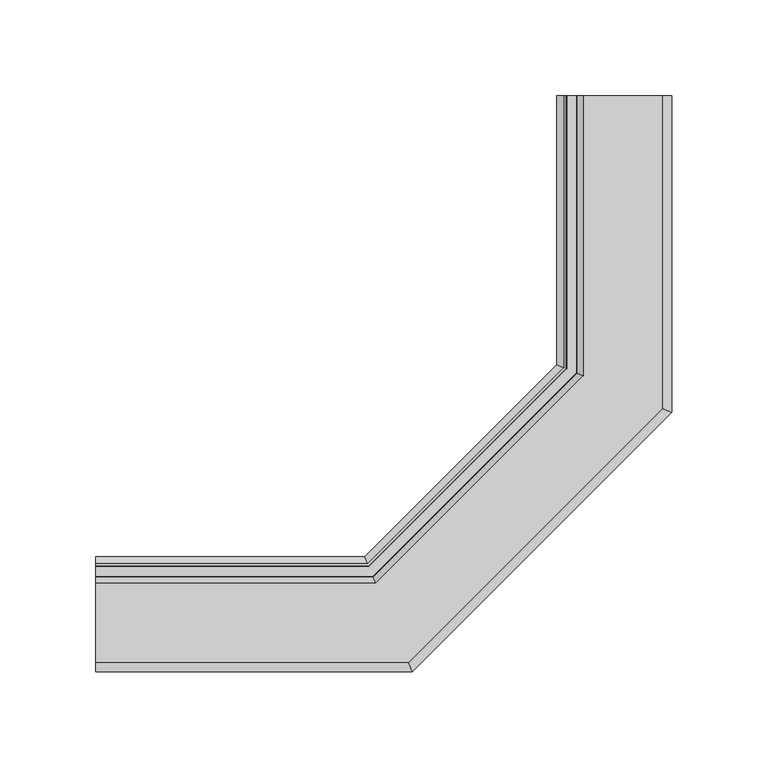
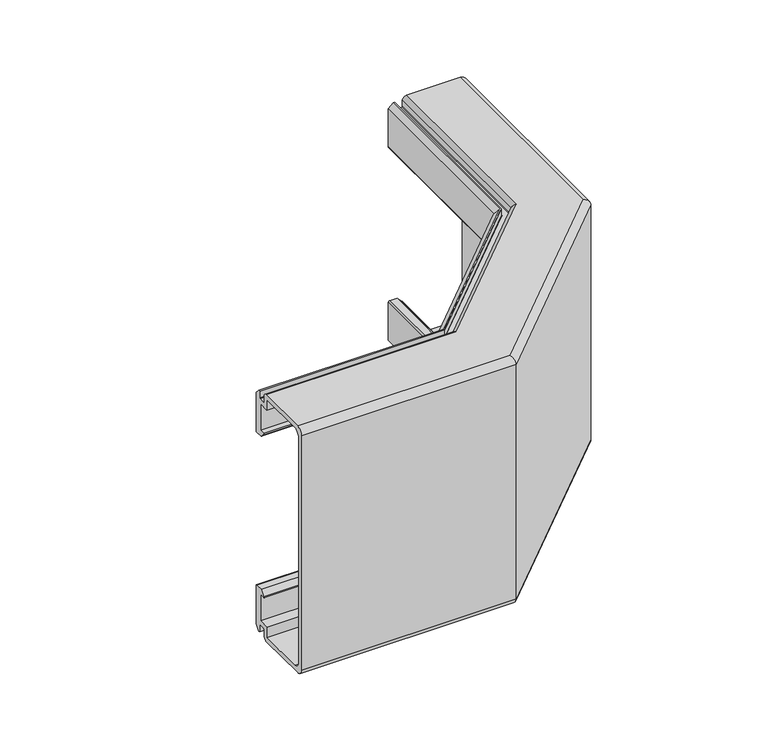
"""IFC4 building model written with IfcOpenShell, lengths in millimetres: cable carrier fitting geometry, CCBPE_Vertical_Inside_Bend-Basorplast : Basorplast CCBPE."""

import ifcopenshell
import ifcopenshell.guid

model = None  # the IFC model being written
_history = None  # IfcOwnerHistory: only IFC2X3 demands one
_inside = {}  # id of a spatial element -> (the spatial element, [elements in it])
_under = {}  # id of a project, library or spatial element -> (it, [spatial elements below it])
_declared = {}  # id of a project -> (the project, [libraries it declares])
_typed = {}  # id of a type object -> (the type object, [elements of that type])
_made_of = {}  # id of a material, layer set ... -> (it, [elements and type objects made of it])


def new_model(schema):
    """Start an empty IFC model of exactly this schema.

    Asked for "IFC4X3", IfcOpenShell would pick the latest addendum, in which some entities
    have other attributes; the version numbers below select the first issue.
    IFC2X3 requires an IfcOwnerHistory on every rooted entity: one is made here for all.
    """
    global model, _history
    if schema == "IFC4X3":
        model = ifcopenshell.file(schema_version=(4, 3, 0, 0))
    else:
        model = ifcopenshell.file(schema=schema)
    _inside.clear()
    _under.clear()
    _declared.clear()
    _typed.clear()
    _made_of.clear()
    _history = None
    if model.schema == "IFC2X3":
        org = make("IfcOrganization", Name="unknown")
        user = make(
            "IfcPersonAndOrganization",
            ThePerson=make("IfcPerson", FamilyName="unknown"),
            TheOrganization=org,
        )
        app = make(
            "IfcApplication",
            ApplicationDeveloper=org,
            Version="unknown",
            ApplicationFullName="unknown",
            ApplicationIdentifier="unknown",
        )
        _history = make(
            "IfcOwnerHistory",
            OwningUser=user,
            OwningApplication=app,
            ChangeAction="ADDED",
            CreationDate=0,
        )
    return model


def make(cls, **values):
    """One entity of the class cls with the attributes given. An attribute that is None is left unset."""
    return model.create_entity(
        cls, **{name: value for name, value in values.items() if value is not None}
    )


def rooted(cls, **values):
    """An entity with a GlobalId (a new one), such as an element, a storey or a relation."""
    return make(cls, GlobalId=ifcopenshell.guid.new(), OwnerHistory=_history, **values)


def si_unit(unit_type, name, prefix=None):
    """IfcSIUnit, for example si_unit("LENGTHUNIT", "METRE", prefix="MILLI")."""
    return make("IfcSIUnit", UnitType=unit_type, Prefix=prefix, Name=name)


def assignment(units):
    """IfcUnitAssignment: the units of a project."""
    return None if units is None else make("IfcUnitAssignment", Units=units)


def point(xyz):
    """IfcCartesianPoint."""
    return None if xyz is None else make("IfcCartesianPoint", Coordinates=xyz)


def direction(xyz):
    """IfcDirection."""
    return None if xyz is None else make("IfcDirection", DirectionRatios=xyz)


def frame(location, z_axis=None, x_axis=None):
    """IfcAxis2Placement3D, a coordinate frame: its origin and axes. An axis left out is left unset."""
    return make(
        "IfcAxis2Placement3D",
        Location=point(location),
        Axis=direction(z_axis),
        RefDirection=direction(x_axis),
    )


def origin():
    """The frame at (0, 0, 0) with its axes left unset."""
    return frame((0.0, 0.0, 0.0))


def place(relative_to, where):
    """IfcLocalPlacement: puts the frame where relative to a parent placement (None: the world)."""
    return make(
        "IfcLocalPlacement", PlacementRelTo=relative_to, RelativePlacement=where
    )


def context(
    kind, dimensions, precision=None, world=None, true_north=None, identifier=None
):
    """IfcGeometricRepresentationContext, for example the 3D "Model" context."""
    return make(
        "IfcGeometricRepresentationContext",
        ContextIdentifier=identifier,
        ContextType=kind,
        CoordinateSpaceDimension=dimensions,
        Precision=precision,
        WorldCoordinateSystem=world,
        TrueNorth=true_north,
    )


def project(units=None, contexts=None):
    """IfcProject with its units and contexts."""
    return rooted(
        "IfcProject",
        Name="project",
        RepresentationContexts=contexts,
        UnitsInContext=assignment(units),
    )


def spatial(cls, under=None, at=None, **own):
    """A site, building, storey or space (cls), placed at a placement, below another one or the project."""
    s = rooted(cls, ObjectPlacement=at, **own)
    if under is not None:
        _under.setdefault(under.id(), (under, []))[1].append(s)
    return s


def polyline(points):
    """IfcPolyline through the points."""
    return make("IfcPolyline", Points=[point(p) for p in points])


def circle_curve(where, radius):
    """IfcCircle in the frame where."""
    return make("IfcCircle", Position=where, Radius=radius)


def ellipse_curve(where, semi_axis1, semi_axis2):
    """IfcEllipse in the frame where."""
    return make(
        "IfcEllipse", Position=where, SemiAxis1=semi_axis1, SemiAxis2=semi_axis2
    )


def shape(context_of_items, identifier, shape_type, items):
    """IfcShapeRepresentation: the items that make up one representation, for example the "Body"."""
    return make(
        "IfcShapeRepresentation",
        ContextOfItems=context_of_items,
        RepresentationIdentifier=identifier,
        RepresentationType=shape_type,
        Items=items,
    )


def source(mapping_origin, context_of_items, identifier, shape_type, items):
    """IfcRepresentationMap: a shape defined once, which mapped items show again and again."""
    return make(
        "IfcRepresentationMap",
        MappingOrigin=mapping_origin,
        MappedRepresentation=shape(context_of_items, identifier, shape_type, items),
    )


def transform(
    local_origin,
    x_axis=None,
    y_axis=None,
    z_axis=None,
    scale=None,
    scale2=None,
    scale3=None,
    uniform=True,
):
    """IfcCartesianTransformationOperator3D, or its non-uniform kind. x_axis, y_axis, z_axis: its Axis1, 2, 3."""
    if uniform:
        return make(
            "IfcCartesianTransformationOperator3D",
            Axis1=direction(x_axis),
            Axis2=direction(y_axis),
            LocalOrigin=point(local_origin),
            Scale=scale,
            Axis3=direction(z_axis),
        )
    return make(
        "IfcCartesianTransformationOperator3DnonUniform",
        Axis1=direction(x_axis),
        Axis2=direction(y_axis),
        LocalOrigin=point(local_origin),
        Scale=scale,
        Axis3=direction(z_axis),
        Scale2=scale2,
        Scale3=scale3,
    )


def mapped(mapping_source, mapping_target):
    """IfcMappedItem: shows the shape of a source again, moved by a transform."""
    return make(
        "IfcMappedItem", MappingSource=mapping_source, MappingTarget=mapping_target
    )


def made_of(thing, what):
    """Note that an element or type object is made of a material, layer set ...; save() writes the relation."""
    if what is not None:
        _made_of.setdefault(what.id(), (what, []))[1].append(thing)
    return thing


def element(
    cls,
    number,
    at=None,
    inside=None,
    cuts=None,
    type_object=None,
    material=None,
    context=None,
    identifier="Body",
    shape_type=None,
    held_by="IfcProductDefinitionShape",
    body=None,
    shapes=None,
    **own,
):
    """One element of the class cls, such as IfcWall. Its Tag is "e" and its number.

    at: its placement. inside: the storey or other place that contains it. cuts: it is an
    opening in that element (IfcRelVoidsElement). A single representation is given by context,
    identifier, shape_type and body (its items); several are given by shapes. held_by: the class
    of the entity that holds the representations. save() writes the other relations.
    """
    e = rooted(cls, Tag="e%d" % number, ObjectPlacement=at, **own)
    if body is not None:
        shapes = [shape(context, identifier, shape_type, body)]
    if shapes is not None:
        e.Representation = make(held_by, Representations=shapes)
    if inside is not None:
        _inside.setdefault(inside.id(), (inside, []))[1].append(e)
    if cuts is not None:
        rooted(
            "IfcRelVoidsElement", RelatingBuildingElement=cuts, RelatedOpeningElement=e
        )
    if type_object is not None:
        _typed.setdefault(type_object.id(), (type_object, []))[1].append(e)
    return made_of(e, material)


def aggregate(whole, parts):
    """IfcRelAggregates: a whole, such as a stair, and the parts it consists of."""
    return rooted("IfcRelAggregates", RelatingObject=whole, RelatedObjects=parts)


def save(model, path):
    """Write the relations noted so far, then the file.

    IfcRelAggregates (storeys below a building ...), IfcRelContainedInSpatialStructure (elements
    in a storey), IfcRelDefinesByType, IfcRelAssociatesMaterial and IfcRelDeclares: one each for
    every whole, place, type object, material and project.
    """
    for whole, parts in _under.values():
        aggregate(whole, parts)
    for where, things in _inside.values():
        rooted(
            "IfcRelContainedInSpatialStructure",
            RelatedElements=things,
            RelatingStructure=where,
        )
    for kind, things in _typed.values():
        rooted("IfcRelDefinesByType", RelatedObjects=things, RelatingType=kind)
    for what, things in _made_of.values():
        rooted("IfcRelAssociatesMaterial", RelatedObjects=things, RelatingMaterial=what)
    for by, libraries in _declared.values():
        rooted("IfcRelDeclares", RelatingContext=by, RelatedDefinitions=libraries)
    model.write(path)


def plane_surface(at):
    """IfcPlane: the flat surface through the origin of the frame at, square to its z axis."""
    return make("IfcPlane", Position=at)


def cylinder_surface(at, radius):
    """IfcCylindricalSurface: all points at the distance radius from the z axis of the frame at."""
    return make("IfcCylindricalSurface", Position=at, Radius=radius)


def revolved_surface(curve, axis_point, axis_direction):
    """IfcSurfaceOfRevolution: the curve turned about the line through axis_point along axis_direction."""
    return make(
        "IfcSurfaceOfRevolution",
        SweptCurve=make("IfcArbitraryOpenProfileDef", ProfileType="CURVE", Curve=curve),
        AxisPosition=make("IfcAxis1Placement", Location=point(axis_point), Axis=direction(axis_direction)),
    )


def advanced_brep(points, edges, surfaces, faces):
    """IfcAdvancedBrep: a solid bounded by faces that lie on surfaces and meet in shared edges.

    An edge is (start, end): straight between two places in points (the first is 0);
    or (start, end, curve); or (start, end, curve, False) where it runs against its curve.
    A face is (place in surfaces, loops), or (place, loops, False) where it looks against
    its surface's normal. A loop lists edges by number (the first is 1), with a minus sign
    where the edge is run from its end to its start. The first loop is the outer one.
    """
    corners = [point(p) for p in points]
    vertices = [make("IfcVertexPoint", VertexGeometry=c) for c in corners]
    made = []
    for start, end, *more in edges:
        made.append(
            make(
                "IfcEdgeCurve",
                EdgeStart=vertices[start],
                EdgeEnd=vertices[end],
                EdgeGeometry=more[0] if more else make("IfcPolyline", Points=[corners[start], corners[end]]),
                SameSense=more[1] if len(more) > 1 else True,
            )
        )
    hull = []
    for where, loops, *sense in faces:
        bounds = []
        for j, loop in enumerate(loops):
            ring = [make("IfcOrientedEdge", EdgeElement=made[abs(k) - 1], Orientation=k > 0) for k in loop]
            bounds.append(
                make(
                    "IfcFaceOuterBound" if j == 0 else "IfcFaceBound",
                    Bound=make("IfcEdgeLoop", EdgeList=ring),
                    Orientation=True,
                )
            )
        hull.append(make("IfcAdvancedFace", Bounds=bounds, FaceSurface=surfaces[where], SameSense=sense[0] if sense else True))
    return make("IfcAdvancedBrep", Outer=make("IfcClosedShell", CfsFaces=hull))


def cable_carrier_fitting_e7411418(model_context):
    return source(origin(), model_context, "Body", "AdvancedBrep", [
        advanced_brep(
        [(-19.6464466, 270.0, -65.6464466), (-20.0, 270.0, -66.5), (-24.0, 270.0, -66.5), (-24.0, 270.0, -87.9), (-15.7, 270.0, -87.9), (-15.7, 270.0, -96.4), (21.4, 270.0, -96.4), (26.4, 270.0, -91.4), (26.4, 270.0, 91.4), (21.4, 270.0, 96.4), (-15.7, 270.0, 96.4), (-15.7, 270.0, 87.9), (-24.0, 270.0, 87.9), (-24.0, 270.0, 66.5), (-20.0, 270.0, 66.5), (-19.6464466, 270.0, 65.6464466), (-23.2928932, 270.0, 62.0), (-29.0, 270.0, 62.0), (-30.0, 270.0, 63.0), (-30.0, 270.0, 93.8), (-26.3, 270.0, 97.5), (-25.3, 270.0, 97.5), (-25.3, 270.0, 92.0), (-24.8, 270.0, 91.5), (-19.8, 270.0, 91.5), (-19.3, 270.0, 92.0), (-19.3, 270.0, 97.0), (-16.3, 270.0, 100.0), (25.0, 270.0, 100.0), (30.0, 270.0, 95.0), (30.0, 270.0, -95.0), (25.0, 270.0, -100.0), (-16.3, 270.0, -100.0), (-19.3, 270.0, -97.0), (-19.3, 270.0, -92.0), (-19.8, 270.0, -91.5), (-24.8, 270.0, -91.5), (-25.3, 270.0, -92.0), (-25.3, 270.0, -97.5), (-26.3, 270.0, -97.5), (-30.0, 270.0, -93.8), (-30.0, 270.0, -63.0), (-29.0, 270.0, -62.0), (-23.2928932, 270.0, -62.0), (-270.0, 19.6464466, -65.6464466), (-270.0, 23.2928932, -62.0), (-270.0, 29.0, -62.0), (-270.0, 30.0, -63.0), (-270.0, 30.0, -93.8), (-270.0, 26.3, -97.5), (-270.0, 25.3, -97.5), (-270.0, 25.3, -92.0), (-270.0, 24.8, -91.5), (-270.0, 19.8, -91.5), (-270.0, 19.3, -92.0), (-270.0, 19.3, -97.0), (-270.0, 16.3, -100.0), (-270.0, -25.0, -100.0), (-270.0, -30.0, -95.0), (-270.0, -30.0, 95.0), (-270.0, -25.0, 100.0), (-270.0, 16.3, 100.0), (-270.0, 19.3, 97.0), (-270.0, 19.3, 92.0), (-270.0, 19.8, 91.5), (-270.0, 24.8, 91.5), (-270.0, 25.3, 92.0), (-270.0, 25.3, 97.5), (-270.0, 26.3, 97.5), (-270.0, 30.0, 93.8), (-270.0, 30.0, 63.0), (-270.0, 29.0, 62.0), (-270.0, 23.2928932, 62.0), (-270.0, 19.6464466, 65.6464466), (-270.0, 20.0, 66.5), (-270.0, 24.0, 66.5), (-270.0, 24.0, 87.9), (-270.0, 15.7, 87.9), (-270.0, 15.7, 96.4), (-270.0, -21.4, 96.4), (-270.0, -26.4, 91.4), (-270.0, -26.4, -91.4), (-270.0, -21.4, -96.4), (-270.0, 15.7, -96.4), (-270.0, 15.7, -87.9), (-270.0, 24.0, -87.9), (-270.0, 24.0, -66.5), (-270.0, 20.0, -66.5), (-19.6464466, 125.7114178, -65.6464466), (-20.0, 125.8578644, -66.5), (-125.8578644, 20.0, -66.5), (-127.5147186, 24.0, -66.5), (-24.0, 127.5147186, -66.5), (-24.0, 127.5147186, -87.9), (-127.5147186, 24.0, -87.9), (-124.0767461, 15.7, -87.9), (-15.7, 124.0767461, -87.9), (-15.7, 124.0767461, -96.4), (-124.0767461, 15.7, -96.4), (-108.7094229, -21.4, -96.4), (21.4, 108.7094229, -96.4), (26.4, 106.6383551, -91.4), (26.4, 106.6383551, 91.4), (21.4, 108.7094229, 96.4), (-108.7094229, -21.4, 96.4), (-124.0767461, 15.7, 96.4), (-15.7, 124.0767461, 96.4), (-15.7, 124.0767461, 87.9), (-124.0767461, 15.7, 87.9), (-127.5147186, 24.0, 87.9), (-24.0, 127.5147186, 87.9), (-24.0, 127.5147186, 66.5), (-127.5147186, 24.0, 66.5), (-125.8578644, 20.0, 66.5), (-20.0, 125.8578644, 66.5), (-19.6464466, 125.7114178, 65.6464466), (-23.2928932, 127.2218254, 62.0), (-127.2218254, 23.2928932, 62.0), (-129.5857864, 29.0, 62.0), (-29.0, 129.5857864, 62.0), (-30.0, 130.0, 63.0), (-30.0, 130.0, 93.8), (-26.3, 128.4674098, 97.5), (-128.4674098, 26.3, 97.5), (-128.0531963, 25.3, 97.5), (-25.3, 128.0531963, 97.5), (-25.3, 128.0531963, 92.0), (-24.8, 127.8460895, 91.5), (-127.8460895, 24.8, 91.5), (-125.7750217, 19.8, 91.5), (-19.8, 125.7750217, 91.5), (-19.3, 125.5679149, 92.0), (-19.3, 125.5679149, 97.0), (-16.3, 124.3252742, 100.0), (-124.3252742, 16.3, 100.0), (-107.2182541, -25.0, 100.0), (25.0, 107.2182541, 100.0), (30.0, 105.1471863, 95.0), (30.0, 105.1471863, -95.0), (25.0, 107.2182541, -100.0), (-107.2182541, -25.0, -100.0), (-124.3252742, 16.3, -100.0), (-16.3, 124.3252742, -100.0), (-19.3, 125.5679149, -97.0), (-19.3, 125.5679149, -92.0), (-19.8, 125.7750217, -91.5), (-125.7750217, 19.8, -91.5), (-127.8460895, 24.8, -91.5), (-24.8, 127.8460895, -91.5), (-25.3, 128.0531963, -92.0), (-25.3, 128.0531963, -97.5), (-128.0531963, 25.3, -97.5), (-128.4674098, 26.3, -97.5), (-26.3, 128.4674098, -97.5), (-30.0, 130.0, -93.8), (-30.0, 130.0, -63.0), (-29.0, 129.5857864, -62.0), (-129.5857864, 29.0, -62.0), (-127.2218254, 23.2928932, -62.0), (-23.2928932, 127.2218254, -62.0), (-125.7114178, 19.6464466, -65.6464466), (-106.6383551, -26.4, -91.4), (-106.6383551, -26.4, 91.4), (-125.7114178, 19.6464466, 65.6464466), (-130.0, 30.0, 63.0), (-130.0, 30.0, 93.8), (-128.0531963, 25.3, 92.0), (-125.5679149, 19.3, 92.0), (-125.5679149, 19.3, 97.0), (-105.1471863, -30.0, 95.0), (-105.1471863, -30.0, -95.0), (-125.5679149, 19.3, -97.0), (-125.5679149, 19.3, -92.0), (-128.0531963, 25.3, -92.0), (-130.0, 30.0, -93.8), (-130.0, 30.0, -63.0)],
        [
            (0, 1, circle_curve(frame((-20.0, 270.0, -66.0), z_axis=(0.0, 1.0, 0.0), x_axis=(0.0, 0.0, 1.0)), 0.5)),
            (1, 2),
            (2, 3),
            (3, 4),
            (4, 5),
            (5, 6),
            (6, 7, circle_curve(frame((21.4, 270.0, -91.4), z_axis=(0.0, -1.0, 0.0), x_axis=(0.0, 0.0, 1.0)), 5.0)),
            (7, 8),
            (8, 9, circle_curve(frame((21.4, 270.0, 91.4), z_axis=(0.0, -1.0, 0.0), x_axis=(0.0, 0.0, 1.0)), 5.0)),
            (9, 10),
            (10, 11),
            (11, 12),
            (12, 13),
            (13, 14),
            (14, 15, circle_curve(frame((-20.0, 270.0, 66.0), z_axis=(0.0, 1.0, 0.0), x_axis=(0.0, 0.0, 1.0)), 0.5)),
            (15, 16),
            (16, 17),
            (17, 18, circle_curve(frame((-29.0, 270.0, 63.0), z_axis=(0.0, 1.0, 0.0), x_axis=(0.0, 0.0, 1.0)), 1.0)),
            (18, 19),
            (19, 20),
            (20, 21),
            (21, 22),
            (22, 23, circle_curve(frame((-24.8, 270.0, 92.0), z_axis=(0.0, -1.0, 0.0), x_axis=(0.0, 0.0, 1.0)), 0.5)),
            (23, 24),
            (24, 25, circle_curve(frame((-19.8, 270.0, 92.0), z_axis=(0.0, -1.0, 0.0), x_axis=(0.0, 0.0, 1.0)), 0.5)),
            (25, 26),
            (26, 27, circle_curve(frame((-16.3, 270.0, 97.0), z_axis=(0.0, 1.0, 0.0), x_axis=(0.0, 0.0, 1.0)), 3.0)),
            (27, 28),
            (28, 29, circle_curve(frame((25.0, 270.0, 95.0), z_axis=(0.0, 1.0, 0.0), x_axis=(0.0, 0.0, 1.0)), 5.0)),
            (29, 30),
            (30, 31, circle_curve(frame((25.0, 270.0, -95.0), z_axis=(0.0, 1.0, 0.0), x_axis=(0.0, 0.0, 1.0)), 5.0)),
            (31, 32),
            (32, 33, circle_curve(frame((-16.3, 270.0, -97.0), z_axis=(0.0, 1.0, 0.0), x_axis=(0.0, 0.0, 1.0)), 3.0)),
            (33, 34),
            (34, 35, circle_curve(frame((-19.8, 270.0, -92.0), z_axis=(0.0, -1.0, 0.0), x_axis=(0.0, 0.0, 1.0)), 0.5)),
            (35, 36),
            (36, 37, circle_curve(frame((-24.8, 270.0, -92.0), z_axis=(0.0, -1.0, 0.0), x_axis=(0.0, 0.0, 1.0)), 0.5)),
            (37, 38),
            (38, 39),
            (39, 40),
            (40, 41),
            (41, 42, circle_curve(frame((-29.0, 270.0, -63.0), z_axis=(0.0, 1.0, 0.0), x_axis=(0.0, 0.0, 1.0)), 1.0)),
            (42, 43),
            (43, 0),
            (44, 45),
            (45, 46),
            (46, 47, circle_curve(frame((-270.0, 29.0, -63.0), z_axis=(-1.0, 0.0, 0.0), x_axis=(0.0, 0.0, 1.0)), 1.0)),
            (47, 48),
            (48, 49),
            (49, 50),
            (50, 51),
            (51, 52, circle_curve(frame((-270.0, 24.8, -92.0), z_axis=(1.0, 0.0, 0.0), x_axis=(0.0, 0.0, 1.0)), 0.5)),
            (52, 53),
            (53, 54, circle_curve(frame((-270.0, 19.8, -92.0), z_axis=(1.0, 0.0, 0.0), x_axis=(0.0, 0.0, 1.0)), 0.5)),
            (54, 55),
            (55, 56, circle_curve(frame((-270.0, 16.3, -97.0), z_axis=(-1.0, 0.0, 0.0), x_axis=(0.0, 0.0, 1.0)), 3.0)),
            (56, 57),
            (57, 58, circle_curve(frame((-270.0, -25.0, -95.0), z_axis=(-1.0, 0.0, 0.0), x_axis=(0.0, 0.0, 1.0)), 5.0)),
            (58, 59),
            (59, 60, circle_curve(frame((-270.0, -25.0, 95.0), z_axis=(-1.0, 0.0, 0.0), x_axis=(0.0, 0.0, 1.0)), 5.0)),
            (60, 61),
            (61, 62, circle_curve(frame((-270.0, 16.3, 97.0), z_axis=(-1.0, 0.0, 0.0), x_axis=(0.0, 0.0, 1.0)), 3.0)),
            (62, 63),
            (63, 64, circle_curve(frame((-270.0, 19.8, 92.0), z_axis=(1.0, 0.0, 0.0), x_axis=(0.0, 0.0, 1.0)), 0.5)),
            (64, 65),
            (65, 66, circle_curve(frame((-270.0, 24.8, 92.0), z_axis=(1.0, 0.0, 0.0), x_axis=(0.0, 0.0, 1.0)), 0.5)),
            (66, 67),
            (67, 68),
            (68, 69),
            (69, 70),
            (70, 71, circle_curve(frame((-270.0, 29.0, 63.0), z_axis=(-1.0, 0.0, 0.0), x_axis=(0.0, 0.0, 1.0)), 1.0)),
            (71, 72),
            (72, 73),
            (73, 74, circle_curve(frame((-270.0, 20.0, 66.0), z_axis=(-1.0, 0.0, 0.0), x_axis=(0.0, 0.0, 1.0)), 0.5)),
            (74, 75),
            (75, 76),
            (76, 77),
            (77, 78),
            (78, 79),
            (79, 80, circle_curve(frame((-270.0, -21.4, 91.4), z_axis=(1.0, 0.0, 0.0), x_axis=(0.0, 0.0, 1.0)), 5.0)),
            (80, 81),
            (81, 82, circle_curve(frame((-270.0, -21.4, -91.4), z_axis=(1.0, 0.0, 0.0), x_axis=(0.0, 0.0, 1.0)), 5.0)),
            (82, 83),
            (83, 84),
            (84, 85),
            (85, 86),
            (86, 87),
            (87, 44, circle_curve(frame((-270.0, 20.0, -66.0), z_axis=(-1.0, 0.0, 0.0), x_axis=(0.0, 0.0, 1.0)), 0.5)),
            (0, 88),
            (88, 89, ellipse_curve(frame((-20.0, 125.8578644, -66.0), z_axis=(0.3826834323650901, 0.9238795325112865, 0.0), x_axis=(-0.9238795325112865, 0.3826834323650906, 0.0)), 0.5411961, 0.5)),
            (89, 1),
            (89, 90),
            (90, 87),
            (86, 91),
            (91, 92),
            (92, 2),
            (92, 93),
            (93, 3),
            (93, 94),
            (94, 85),
            (84, 95),
            (95, 96),
            (96, 4),
            (96, 97),
            (97, 5),
            (97, 98),
            (98, 83),
            (82, 99),
            (99, 100),
            (100, 6),
            (100, 101, ellipse_curve(frame((21.4, 108.7094229, -91.4), z_axis=(-0.3826834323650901, -0.9238795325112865, 0.0), x_axis=(0.9238795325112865, -0.3826834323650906, 0.0)), 5.411961, 5.0)),
            (101, 7),
            (101, 102),
            (102, 8),
            (102, 103, ellipse_curve(frame((21.4, 108.7094229, 91.4), z_axis=(-0.3826834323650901, -0.9238795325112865, 0.0), x_axis=(0.9238795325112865, -0.3826834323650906, 0.0)), 5.411961, 5.0)),
            (103, 9),
            (103, 104),
            (104, 79),
            (78, 105),
            (105, 106),
            (106, 10),
            (106, 107),
            (107, 11),
            (107, 108),
            (108, 77),
            (76, 109),
            (109, 110),
            (110, 12),
            (110, 111),
            (111, 13),
            (111, 112),
            (112, 75),
            (74, 113),
            (113, 114),
            (114, 14),
            (114, 115, ellipse_curve(frame((-20.0, 125.8578644, 66.0), z_axis=(0.3826834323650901, 0.9238795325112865, 0.0), x_axis=(-0.9238795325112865, 0.3826834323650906, 0.0)), 0.5411961, 0.5)),
            (115, 15),
            (115, 116),
            (116, 16),
            (116, 117),
            (117, 72),
            (71, 118),
            (118, 119),
            (119, 17),
            (119, 120, ellipse_curve(frame((-29.0, 129.5857864, 63.0), z_axis=(0.3826834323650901, 0.9238795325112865, 0.0), x_axis=(-0.9238795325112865, 0.3826834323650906, 0.0)), 1.0823922, 1.0)),
            (120, 18),
            (120, 121),
            (121, 19),
            (121, 122),
            (122, 20),
            (122, 123),
            (123, 68),
            (67, 124),
            (124, 125),
            (125, 21),
            (125, 126),
            (126, 22),
            (126, 127, ellipse_curve(frame((-24.8, 127.8460895, 92.0), z_axis=(-0.3826834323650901, -0.9238795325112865, 0.0), x_axis=(0.9238795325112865, -0.3826834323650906, 0.0)), 0.5411961, 0.5)),
            (127, 23),
            (127, 128),
            (128, 65),
            (64, 129),
            (129, 130),
            (130, 24),
            (130, 131, ellipse_curve(frame((-19.8, 125.7750217, 92.0), z_axis=(-0.3826834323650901, -0.9238795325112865, 0.0), x_axis=(0.9238795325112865, -0.3826834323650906, 0.0)), 0.5411961, 0.5)),
            (131, 25),
            (131, 132),
            (132, 26),
            (132, 133, ellipse_curve(frame((-16.3, 124.3252742, 97.0), z_axis=(0.3826834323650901, 0.9238795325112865, 0.0), x_axis=(-0.9238795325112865, 0.3826834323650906, 0.0)), 3.2471766, 3.0)),
            (133, 27),
            (133, 134),
            (134, 61),
            (60, 135),
            (135, 136),
            (136, 28),
            (136, 137, ellipse_curve(frame((25.0, 107.2182541, 95.0), z_axis=(0.3826834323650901, 0.9238795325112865, 0.0), x_axis=(-0.9238795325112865, 0.3826834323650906, 0.0)), 5.411961, 5.0)),
            (137, 29),
            (137, 138),
            (138, 30),
            (138, 139, ellipse_curve(frame((25.0, 107.2182541, -95.0), z_axis=(0.3826834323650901, 0.9238795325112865, 0.0), x_axis=(-0.9238795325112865, 0.3826834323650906, 0.0)), 5.411961, 5.0)),
            (139, 31),
            (139, 140),
            (140, 57),
            (56, 141),
            (141, 142),
            (142, 32),
            (142, 143, ellipse_curve(frame((-16.3, 124.3252742, -97.0), z_axis=(0.3826834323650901, 0.9238795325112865, 0.0), x_axis=(-0.9238795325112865, 0.3826834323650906, 0.0)), 3.2471766, 3.0)),
            (143, 33),
            (143, 144),
            (144, 34),
            (144, 145, ellipse_curve(frame((-19.8, 125.7750217, -92.0), z_axis=(-0.3826834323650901, -0.9238795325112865, 0.0), x_axis=(0.9238795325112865, -0.3826834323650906, 0.0)), 0.5411961, 0.5)),
            (145, 35),
            (145, 146),
            (146, 53),
            (52, 147),
            (147, 148),
            (148, 36),
            (148, 149, ellipse_curve(frame((-24.8, 127.8460895, -92.0), z_axis=(-0.3826834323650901, -0.9238795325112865, 0.0), x_axis=(0.9238795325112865, -0.3826834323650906, 0.0)), 0.5411961, 0.5)),
            (149, 37),
            (149, 150),
            (150, 38),
            (150, 151),
            (151, 50),
            (49, 152),
            (152, 153),
            (153, 39),
            (153, 154),
            (154, 40),
            (154, 155),
            (155, 41),
            (155, 156, ellipse_curve(frame((-29.0, 129.5857864, -63.0), z_axis=(0.3826834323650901, 0.9238795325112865, 0.0), x_axis=(-0.9238795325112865, 0.3826834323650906, 0.0)), 1.0823922, 1.0)),
            (156, 42),
            (156, 157),
            (157, 46),
            (45, 158),
            (158, 159),
            (159, 43),
            (159, 88),
            (88, 160),
            (160, 90, ellipse_curve(frame((-125.8578644, 20.0, -66.0), z_axis=(0.923879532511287, 0.38268343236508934, 0.0), x_axis=(-0.38268343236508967, 0.923879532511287, 0.0)), 0.5411961, 0.5)),
            (91, 94),
            (95, 98),
            (99, 161, ellipse_curve(frame((-108.7094229, -21.4, -91.4), z_axis=(-0.923879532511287, -0.38268343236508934, 0.0), x_axis=(0.38268343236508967, -0.923879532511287, 0.0)), 5.411961, 5.0)),
            (161, 101),
            (161, 162),
            (162, 102),
            (162, 104, ellipse_curve(frame((-108.7094229, -21.4, 91.4), z_axis=(-0.923879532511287, -0.38268343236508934, 0.0), x_axis=(0.38268343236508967, -0.923879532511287, 0.0)), 5.411961, 5.0)),
            (105, 108),
            (109, 112),
            (113, 163, ellipse_curve(frame((-125.8578644, 20.0, 66.0), z_axis=(0.923879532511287, 0.38268343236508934, 0.0), x_axis=(-0.38268343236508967, 0.923879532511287, 0.0)), 0.5411961, 0.5)),
            (163, 115),
            (163, 117),
            (118, 164, ellipse_curve(frame((-129.5857864, 29.0, 63.0), z_axis=(0.923879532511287, 0.38268343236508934, 0.0), x_axis=(-0.38268343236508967, 0.923879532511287, 0.0)), 1.0823922, 1.0)),
            (164, 120),
            (164, 165),
            (165, 121),
            (165, 123),
            (124, 166),
            (166, 126),
            (166, 128, ellipse_curve(frame((-127.8460895, 24.8, 92.0), z_axis=(-0.923879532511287, -0.38268343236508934, 0.0), x_axis=(0.38268343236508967, -0.923879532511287, 0.0)), 0.5411961, 0.5)),
            (129, 167, ellipse_curve(frame((-125.7750217, 19.8, 92.0), z_axis=(-0.923879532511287, -0.38268343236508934, 0.0), x_axis=(0.38268343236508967, -0.923879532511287, 0.0)), 0.5411961, 0.5)),
            (167, 131),
            (167, 168),
            (168, 132),
            (168, 134, ellipse_curve(frame((-124.3252742, 16.3, 97.0), z_axis=(0.923879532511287, 0.38268343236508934, 0.0), x_axis=(-0.38268343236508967, 0.923879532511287, 0.0)), 3.2471766, 3.0)),
            (135, 169, ellipse_curve(frame((-107.2182541, -25.0, 95.0), z_axis=(0.923879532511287, 0.38268343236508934, 0.0), x_axis=(-0.38268343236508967, 0.923879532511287, 0.0)), 5.411961, 5.0)),
            (169, 137),
            (169, 170),
            (170, 138),
            (170, 140, ellipse_curve(frame((-107.2182541, -25.0, -95.0), z_axis=(0.923879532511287, 0.38268343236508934, 0.0), x_axis=(-0.38268343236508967, 0.923879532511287, 0.0)), 5.411961, 5.0)),
            (141, 171, ellipse_curve(frame((-124.3252742, 16.3, -97.0), z_axis=(0.923879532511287, 0.38268343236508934, 0.0), x_axis=(-0.38268343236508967, 0.923879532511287, 0.0)), 3.2471766, 3.0)),
            (171, 143),
            (171, 172),
            (172, 144),
            (172, 146, ellipse_curve(frame((-125.7750217, 19.8, -92.0), z_axis=(-0.923879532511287, -0.38268343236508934, 0.0), x_axis=(0.38268343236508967, -0.923879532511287, 0.0)), 0.5411961, 0.5)),
            (147, 173, ellipse_curve(frame((-127.8460895, 24.8, -92.0), z_axis=(-0.923879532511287, -0.38268343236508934, 0.0), x_axis=(0.38268343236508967, -0.923879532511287, 0.0)), 0.5411961, 0.5)),
            (173, 149),
            (173, 151),
            (152, 174),
            (174, 154),
            (174, 175),
            (175, 155),
            (175, 157, ellipse_curve(frame((-129.5857864, 29.0, -63.0), z_axis=(0.923879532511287, 0.38268343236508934, 0.0), x_axis=(-0.38268343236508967, 0.923879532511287, 0.0)), 1.0823922, 1.0)),
            (158, 160),
            (160, 44),
            (81, 161),
            (80, 162),
            (73, 163),
            (70, 164),
            (69, 165),
            (66, 166),
            (63, 167),
            (62, 168),
            (59, 169),
            (58, 170),
            (55, 171),
            (54, 172),
            (51, 173),
            (48, 174),
            (47, 175),
        ],
        [
            plane_surface(frame((0.0, 270.0, 0.0), z_axis=(0.0, 1.0, 0.0), x_axis=(0.0, 0.0, 1.0))),
            plane_surface(frame((-270.0, 0.0, 0.0), z_axis=(-1.0, 0.0, 0.0), x_axis=(0.0, 0.0, 1.0))),
            cylinder_surface(frame((-20.0, 270.0, -66.0), z_axis=(0.0, 1.0, 0.0), x_axis=(0.0, 0.0, 1.0)), 0.5),
            plane_surface(frame((-20.0, 270.0, -66.5), z_axis=(0.0, 0.0, -1.0), x_axis=(0.0, -1.0, 0.0))),
            plane_surface(frame((-24.0, 270.0, -66.5), z_axis=(1.0, 0.0, 0.0), x_axis=(0.0, -1.0, 0.0))),
            plane_surface(frame((-24.0, 270.0, -87.9), z_axis=(0.0, 0.0, 1.0), x_axis=(0.0, -1.0, 0.0))),
            plane_surface(frame((-15.7, 270.0, -87.9), z_axis=(1.0, 0.0, 0.0), x_axis=(0.0, -1.0, 0.0))),
            plane_surface(frame((-15.7, 270.0, -96.4), z_axis=(0.0, 0.0, 1.0), x_axis=(0.0, -1.0, 0.0))),
            revolved_surface(polyline([(21.4, 106.638355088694, -86.4), (21.4, 270.0, -86.4)]), (21.4, 270.0, -91.4), (0.0, -1.0, 0.0)),
            plane_surface(frame((26.4, 270.0, -91.4), z_axis=(-1.0, 0.0, 0.0), x_axis=(0.0, -1.0, 0.0))),
            revolved_surface(polyline([(21.4, 106.638355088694, 96.4), (21.4, 270.0, 96.4)]), (21.4, 270.0, 91.4), (0.0, -1.0, 0.0)),
            plane_surface(frame((21.4, 270.0, 96.4), z_axis=(0.0, 0.0, -1.0), x_axis=(0.0, -1.0, 0.0))),
            plane_surface(frame((-15.7, 270.0, 96.4), z_axis=(1.0, 0.0, 0.0), x_axis=(0.0, -1.0, 0.0))),
            plane_surface(frame((-15.7, 270.0, 87.9), z_axis=(0.0, 0.0, -1.0), x_axis=(0.0, -1.0, 0.0))),
            plane_surface(frame((-24.0, 270.0, 87.9), z_axis=(1.0, 0.0, 0.0), x_axis=(0.0, -1.0, 0.0))),
            plane_surface(frame((-24.0, 270.0, 66.5), z_axis=(0.0, 0.0, 1.0), x_axis=(0.0, -1.0, 0.0))),
            cylinder_surface(frame((-20.0, 270.0, 66.0), z_axis=(0.0, 1.0, 0.0), x_axis=(0.0, 0.0, 1.0)), 0.5),
            plane_surface(frame((-19.6464466, 270.0, 65.6464466), z_axis=(0.7071067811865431, 0.0, -0.707106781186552), x_axis=(0.0, -1.0, 0.0))),
            plane_surface(frame((-23.2928932, 270.0, 62.0), z_axis=(0.0, 0.0, -1.0), x_axis=(0.0, -1.0, 0.0))),
            cylinder_surface(frame((-29.0, 270.0, 63.0), z_axis=(0.0, 1.0, 0.0), x_axis=(0.0, 0.0, 1.0)), 1.0),
            plane_surface(frame((-30.0, 270.0, 63.0), z_axis=(-1.0, 0.0, 0.0), x_axis=(0.0, -1.0, 0.0))),
            plane_surface(frame((-30.0, 270.0, 93.8), z_axis=(-0.7071067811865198, 0.0, 0.7071067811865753), x_axis=(0.0, -1.0, 0.0))),
            plane_surface(frame((-26.3, 270.0, 97.5), z_axis=(0.0, 0.0, 1.0), x_axis=(0.0, -1.0, 0.0))),
            plane_surface(frame((-25.3, 270.0, 97.5), z_axis=(1.0, 0.0, 0.0), x_axis=(0.0, -1.0, 0.0))),
            revolved_surface(polyline([(-24.8, 127.63898271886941, 92.5), (-24.8, 270.0, 92.5)]), (-24.8, 270.0, 92.0), (0.0, -1.0, 0.0)),
            plane_surface(frame((-24.8, 270.0, 91.5), z_axis=(0.0, 0.0, 1.0), x_axis=(0.0, -1.0, 0.0))),
            revolved_surface(polyline([(-19.8, 125.5679149, 92.5), (-19.8, 270.0, 92.5)]), (-19.8, 270.0, 92.0), (0.0, -1.0, 0.0)),
            plane_surface(frame((-19.3, 270.0, 92.0), z_axis=(-1.0, 0.0, 0.0), x_axis=(0.0, -1.0, 0.0))),
            cylinder_surface(frame((-16.3, 270.0, 97.0), z_axis=(0.0, 1.0, 0.0), x_axis=(0.0, 0.0, 1.0)), 3.0),
            plane_surface(frame((-16.3, 270.0, 100.0), z_axis=(0.0, 0.0, 1.0), x_axis=(0.0, -1.0, 0.0))),
            cylinder_surface(frame((25.0, 270.0, 95.0), z_axis=(0.0, 1.0, 0.0), x_axis=(0.0, 0.0, 1.0)), 5.0),
            plane_surface(frame((30.0, 270.0, 95.0), z_axis=(1.0, 0.0, 0.0), x_axis=(0.0, -1.0, 0.0))),
            cylinder_surface(frame((25.0, 270.0, -95.0), z_axis=(0.0, 1.0, 0.0), x_axis=(0.0, 0.0, 1.0)), 5.0),
            plane_surface(frame((25.0, 270.0, -100.0), z_axis=(0.0, 0.0, -1.0), x_axis=(0.0, -1.0, 0.0))),
            cylinder_surface(frame((-16.3, 270.0, -97.0), z_axis=(0.0, 1.0, 0.0), x_axis=(0.0, 0.0, 1.0)), 3.0),
            plane_surface(frame((-19.3, 270.0, -97.0), z_axis=(-1.0, 0.0, 0.0), x_axis=(0.0, -1.0, 0.0))),
            revolved_surface(polyline([(-19.8, 125.5679149, -91.5), (-19.8, 270.0, -91.5)]), (-19.8, 270.0, -92.0), (0.0, -1.0, 0.0)),
            plane_surface(frame((-19.8, 270.0, -91.5), z_axis=(0.0, 0.0, -1.0), x_axis=(0.0, -1.0, 0.0))),
            revolved_surface(polyline([(-24.8, 127.63898271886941, -91.5), (-24.8, 270.0, -91.5)]), (-24.8, 270.0, -92.0), (0.0, -1.0, 0.0)),
            plane_surface(frame((-25.3, 270.0, -92.0), z_axis=(1.0, 0.0, 0.0), x_axis=(0.0, -1.0, 0.0))),
            plane_surface(frame((-25.3, 270.0, -97.5), z_axis=(0.0, 0.0, -1.0), x_axis=(0.0, -1.0, 0.0))),
            plane_surface(frame((-26.3, 270.0, -97.5), z_axis=(-0.7071067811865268, 0.0, -0.7071067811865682), x_axis=(0.0, -1.0, 0.0))),
            plane_surface(frame((-30.0, 270.0, -93.8), z_axis=(-1.0, 0.0, 0.0), x_axis=(0.0, -1.0, 0.0))),
            cylinder_surface(frame((-29.0, 270.0, -63.0), z_axis=(0.0, 1.0, 0.0), x_axis=(0.0, 0.0, 1.0)), 1.0),
            plane_surface(frame((-29.0, 270.0, -62.0), z_axis=(0.0, 0.0, 1.0), x_axis=(0.0, -1.0, 0.0))),
            plane_surface(frame((-23.2928932, 270.0, -62.0), z_axis=(0.7071067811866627, 0.0, 0.7071067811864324), x_axis=(0.0, -1.0, 0.0))),
            cylinder_surface(frame((-14.1421356, 131.7157288, -66.0), z_axis=(0.7071067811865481, 0.7071067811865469, 0.0), x_axis=(0.0, 0.0, 1.0)), 0.5),
            plane_surface(frame((-24.0, 127.5147186, -66.5), z_axis=(0.7071067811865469, -0.7071067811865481, 0.0), x_axis=(-0.7071067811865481, -0.7071067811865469, 0.0))),
            plane_surface(frame((-15.7, 124.0767461, -87.9), z_axis=(0.707106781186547, -0.707106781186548, 0.0), x_axis=(-0.707106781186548, -0.707106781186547, 0.0))),
            revolved_surface(polyline([(-110.1738890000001, -22.864466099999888, -86.4), (22.86446610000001, 110.17388899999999, -86.4)]), (15.1320851, 102.441508, -91.4), (-0.7071067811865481, -0.7071067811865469, 0.0)),
            plane_surface(frame((26.4, 106.6383551, -91.4), z_axis=(-0.707106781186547, 0.7071067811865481, 0.0), x_axis=(-0.7071067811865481, -0.707106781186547, 0.0))),
            revolved_surface(polyline([(-110.1738890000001, -22.864466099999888, 96.4), (22.86446610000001, 110.17388899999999, 96.4)]), (15.1320851, 102.441508, 91.4), (-0.7071067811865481, -0.7071067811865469, 0.0)),
            plane_surface(frame((-15.7, 124.0767461, 96.4), z_axis=(0.7071067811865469, -0.7071067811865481, 0.0), x_axis=(-0.7071067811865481, -0.7071067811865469, 0.0))),
            plane_surface(frame((-24.0, 127.5147186, 87.9), z_axis=(0.7071067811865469, -0.7071067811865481, 0.0), x_axis=(-0.7071067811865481, -0.7071067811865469, 0.0))),
            cylinder_surface(frame((-14.1421356, 131.7157288, 66.0), z_axis=(0.7071067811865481, 0.7071067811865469, 0.0), x_axis=(0.0, 0.0, 1.0)), 0.5),
            plane_surface(frame((-19.6464466, 125.7114178, 65.6464466), z_axis=(0.49999999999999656, -0.49999999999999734, -0.707106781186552), x_axis=(-0.7071067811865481, -0.707106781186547, 0.0))),
            cylinder_surface(frame((-20.5060967, 138.0796898, 63.0), z_axis=(0.7071067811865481, 0.7071067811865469, 0.0), x_axis=(0.0, 0.0, 1.0)), 1.0),
            plane_surface(frame((-30.0, 130.0, 63.0), z_axis=(-0.707106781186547, 0.7071067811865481, 0.0), x_axis=(-0.7071067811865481, -0.707106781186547, 0.0))),
            plane_surface(frame((-30.0, 130.0, 93.8), z_axis=(-0.4999999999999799, 0.4999999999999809, 0.7071067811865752), x_axis=(-0.7071067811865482, -0.7071067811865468, 0.0))),
            plane_surface(frame((-25.3, 128.0531963, 97.5), z_axis=(0.7071067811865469, -0.7071067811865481, 0.0), x_axis=(-0.7071067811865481, -0.7071067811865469, 0.0))),
            revolved_surface(polyline([(-127.99253610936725, 24.65355339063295, 92.5), (-24.653553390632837, 127.99253610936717, 92.5)]), (-17.5362482, 135.1098413, 92.0), (-0.7071067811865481, -0.7071067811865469, 0.0)),
            revolved_surface(polyline([(-125.92146830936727, 19.653553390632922, 92.5), (-19.653553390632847, 125.92146830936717, 92.5)]), (-14.0007143, 131.5743074, 92.0), (-0.7071067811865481, -0.7071067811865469, 0.0)),
            plane_surface(frame((-19.3, 125.5679149, 92.0), z_axis=(-0.707106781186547, 0.7071067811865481, 0.0), x_axis=(-0.7071067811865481, -0.707106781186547, 0.0))),
            cylinder_surface(frame((-11.5258405, 129.0994337, 97.0), z_axis=(0.7071067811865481, 0.7071067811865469, 0.0), x_axis=(0.0, 0.0, 1.0)), 3.0),
            cylinder_surface(frame((17.6776695, 99.8959236, 95.0), z_axis=(0.7071067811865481, 0.7071067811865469, 0.0), x_axis=(0.0, 0.0, 1.0)), 5.0),
            plane_surface(frame((30.0, 105.1471863, 95.0), z_axis=(0.7071067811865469, -0.7071067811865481, 0.0), x_axis=(-0.7071067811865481, -0.7071067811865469, 0.0))),
            cylinder_surface(frame((17.6776695, 99.8959236, -95.0), z_axis=(0.7071067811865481, 0.7071067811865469, 0.0), x_axis=(0.0, 0.0, 1.0)), 5.0),
            cylinder_surface(frame((-11.5258405, 129.0994337, -97.0), z_axis=(0.7071067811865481, 0.7071067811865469, 0.0), x_axis=(0.0, 0.0, 1.0)), 3.0),
            plane_surface(frame((-19.3, 125.5679149, -97.0), z_axis=(-0.707106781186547, 0.7071067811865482, 0.0), x_axis=(-0.7071067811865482, -0.707106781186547, 0.0))),
            revolved_surface(polyline([(-125.92146830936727, 19.653553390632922, -91.5), (-19.653553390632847, 125.92146830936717, -91.5)]), (-14.0007143, 131.5743074, -92.0), (-0.7071067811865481, -0.7071067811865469, 0.0)),
            revolved_surface(polyline([(-127.99253610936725, 24.65355339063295, -91.5), (-24.653553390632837, 127.99253610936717, -91.5)]), (-17.5362482, 135.1098413, -92.0), (-0.7071067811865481, -0.7071067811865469, 0.0)),
            plane_surface(frame((-25.3, 128.0531963, -92.0), z_axis=(0.707106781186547, -0.7071067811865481, 0.0), x_axis=(-0.7071067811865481, -0.707106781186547, 0.0))),
            plane_surface(frame((-26.3, 128.4674098, -97.5), z_axis=(-0.4999999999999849, 0.4999999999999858, -0.7071067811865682), x_axis=(-0.7071067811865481, -0.7071067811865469, 0.0))),
            plane_surface(frame((-30.0, 130.0, -93.8), z_axis=(-0.7071067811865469, 0.7071067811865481, 0.0), x_axis=(-0.7071067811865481, -0.7071067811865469, 0.0))),
            cylinder_surface(frame((-20.5060967, 138.0796898, -63.0), z_axis=(0.7071067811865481, 0.7071067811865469, 0.0), x_axis=(0.0, 0.0, 1.0)), 1.0),
            plane_surface(frame((-23.2928932, 127.2218254, -62.0), z_axis=(0.5000000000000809, -0.5000000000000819, 0.7071067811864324), x_axis=(-0.7071067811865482, -0.7071067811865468, 0.0))),
            cylinder_surface(frame((-117.5735931, 20.0, -66.0), z_axis=(1.0, 0.0, 0.0), x_axis=(0.0, 0.0, 1.0)), 0.5),
            plane_surface(frame((-127.5147186, 24.0, -66.5), z_axis=(0.0, -1.0, 0.0), x_axis=(-1.0, 0.0, 0.0))),
            plane_surface(frame((-124.0767461, 15.7, -87.9), z_axis=(0.0, -1.0, 0.0), x_axis=(-1.0, 0.0, 0.0))),
            revolved_surface(polyline([(-270.0, -21.4, -86.4), (-106.638355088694, -21.4, -86.4)]), (-117.5735931, -21.4, -91.4), (-1.0, 0.0, 0.0)),
            plane_surface(frame((-106.6383551, -26.4, -91.4), z_axis=(0.0, 1.0, 0.0), x_axis=(-1.0, 0.0, 0.0))),
            revolved_surface(polyline([(-270.0, -21.4, 96.4), (-106.638355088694, -21.4, 96.4)]), (-117.5735931, -21.4, 91.4), (-1.0, 0.0, 0.0)),
            plane_surface(frame((-124.0767461, 15.7, 96.4), z_axis=(0.0, -1.0, 0.0), x_axis=(-1.0, 0.0, 0.0))),
            plane_surface(frame((-127.5147186, 24.0, 87.9), z_axis=(0.0, -1.0, 0.0), x_axis=(-1.0, 0.0, 0.0))),
            cylinder_surface(frame((-117.5735931, 20.0, 66.0), z_axis=(1.0, 0.0, 0.0), x_axis=(0.0, 0.0, 1.0)), 0.5),
            plane_surface(frame((-125.7114178, 19.6464466, 65.6464466), z_axis=(0.0, -0.7071067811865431, -0.7071067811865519), x_axis=(-1.0, 0.0, 0.0))),
            cylinder_surface(frame((-117.5735931, 29.0, 63.0), z_axis=(1.0, 0.0, 0.0), x_axis=(0.0, 0.0, 1.0)), 1.0),
            plane_surface(frame((-130.0, 30.0, 63.0), z_axis=(0.0, 1.0, 0.0), x_axis=(-1.0, 0.0, 0.0))),
            plane_surface(frame((-130.0, 30.0, 93.8), z_axis=(0.0, 0.7071067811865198, 0.7071067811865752), x_axis=(-1.0, 0.0, 0.0))),
            plane_surface(frame((-128.0531963, 25.3, 97.5), z_axis=(0.0, -1.0, 0.0), x_axis=(-1.0, 0.0, 0.0))),
            revolved_surface(polyline([(-270.0, 24.8, 92.5), (-127.6389827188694, 24.8, 92.5)]), (-117.5735931, 24.8, 92.0), (-1.0, 0.0, 0.0)),
            revolved_surface(polyline([(-270.0, 19.8, 92.5), (-125.5679149, 19.8, 92.5)]), (-117.5735931, 19.8, 92.0), (-1.0, 0.0, 0.0)),
            plane_surface(frame((-125.5679149, 19.3, 92.0), z_axis=(0.0, 1.0, 0.0), x_axis=(-1.0, 0.0, 0.0))),
            cylinder_surface(frame((-117.5735931, 16.3, 97.0), z_axis=(1.0, 0.0, 0.0), x_axis=(0.0, 0.0, 1.0)), 3.0),
            cylinder_surface(frame((-117.5735931, -25.0, 95.0), z_axis=(1.0, 0.0, 0.0), x_axis=(0.0, 0.0, 1.0)), 5.0),
            plane_surface(frame((-105.1471863, -30.0, 95.0), z_axis=(0.0, -1.0, 0.0), x_axis=(-1.0, 0.0, 0.0))),
            cylinder_surface(frame((-117.5735931, -25.0, -95.0), z_axis=(1.0, 0.0, 0.0), x_axis=(0.0, 0.0, 1.0)), 5.0),
            cylinder_surface(frame((-117.5735931, 16.3, -97.0), z_axis=(1.0, 0.0, 0.0), x_axis=(0.0, 0.0, 1.0)), 3.0),
            plane_surface(frame((-125.5679149, 19.3, -97.0), z_axis=(0.0, 1.0, 0.0), x_axis=(-1.0, 0.0, 0.0))),
            revolved_surface(polyline([(-270.0, 19.8, -91.5), (-125.5679149, 19.8, -91.5)]), (-117.5735931, 19.8, -92.0), (-1.0, 0.0, 0.0)),
            revolved_surface(polyline([(-270.0, 24.8, -91.5), (-127.6389827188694, 24.8, -91.5)]), (-117.5735931, 24.8, -92.0), (-1.0, 0.0, 0.0)),
            plane_surface(frame((-128.0531963, 25.3, -92.0), z_axis=(0.0, -1.0, 0.0), x_axis=(-1.0, 0.0, 0.0))),
            plane_surface(frame((-128.4674098, 26.3, -97.5), z_axis=(0.0, 0.7071067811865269, -0.7071067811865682), x_axis=(-1.0, 0.0, 0.0))),
            plane_surface(frame((-130.0, 30.0, -93.8), z_axis=(0.0, 1.0, 0.0), x_axis=(-1.0, 0.0, 0.0))),
            cylinder_surface(frame((-117.5735931, 29.0, -63.0), z_axis=(1.0, 0.0, 0.0), x_axis=(0.0, 0.0, 1.0)), 1.0),
            plane_surface(frame((-127.2218254, 23.2928932, -62.0), z_axis=(0.0, -0.7071067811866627, 0.7071067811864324), x_axis=(-1.0, 0.0, 0.0))),
        ],
        [
            (0, [[1, 2, 3, 4, 5, 6, 7, 8, 9, 10, 11, 12, 13, 14, 15, 16, 17, 18, 19, 20, 21, 22, 23, 24, 25, 26, 27, 28, 29, 30, 31, 32, 33, 34, 35, 36, 37, 38, 39, 40, 41, 42, 43, 44]]),
            (1, [[45, 46, 47, 48, 49, 50, 51, 52, 53, 54, 55, 56, 57, 58, 59, 60, 61, 62, 63, 64, 65, 66, 67, 68, 69, 70, 71, 72, 73, 74, 75, 76, 77, 78, 79, 80, 81, 82, 83, 84, 85, 86, 87, 88]]),
            (2, [[-1, 89, 90, 91]]),
            (3, [[-2, -91, 92, 93, -87, 94, 95, 96]]),
            (4, [[-3, -96, 97, 98]]),
            (5, [[-4, -98, 99, 100, -85, 101, 102, 103]]),
            (6, [[-5, -103, 104, 105]]),
            (7, [[-6, -105, 106, 107, -83, 108, 109, 110]]),
            (8, [[-7, -110, 111, 112]]),
            (9, [[-8, -112, 113, 114]]),
            (10, [[-9, -114, 115, 116]]),
            (11, [[-10, -116, 117, 118, -79, 119, 120, 121]]),
            (12, [[-11, -121, 122, 123]]),
            (13, [[-12, -123, 124, 125, -77, 126, 127, 128]]),
            (14, [[-13, -128, 129, 130]]),
            (15, [[-14, -130, 131, 132, -75, 133, 134, 135]]),
            (16, [[-15, -135, 136, 137]]),
            (17, [[-16, -137, 138, 139]]),
            (18, [[-17, -139, 140, 141, -72, 142, 143, 144]]),
            (19, [[-18, -144, 145, 146]]),
            (20, [[-19, -146, 147, 148]]),
            (21, [[-20, -148, 149, 150]]),
            (22, [[-21, -150, 151, 152, -68, 153, 154, 155]]),
            (23, [[-22, -155, 156, 157]]),
            (24, [[-23, -157, 158, 159]]),
            (25, [[-24, -159, 160, 161, -65, 162, 163, 164]]),
            (26, [[-25, -164, 165, 166]]),
            (27, [[-26, -166, 167, 168]]),
            (28, [[-27, -168, 169, 170]]),
            (29, [[-28, -170, 171, 172, -61, 173, 174, 175]]),
            (30, [[-29, -175, 176, 177]]),
            (31, [[-30, -177, 178, 179]]),
            (32, [[-31, -179, 180, 181]]),
            (33, [[-32, -181, 182, 183, -57, 184, 185, 186]]),
            (34, [[-33, -186, 187, 188]]),
            (35, [[-34, -188, 189, 190]]),
            (36, [[-35, -190, 191, 192]]),
            (37, [[-36, -192, 193, 194, -53, 195, 196, 197]]),
            (38, [[-37, -197, 198, 199]]),
            (39, [[-38, -199, 200, 201]]),
            (40, [[-39, -201, 202, 203, -50, 204, 205, 206]]),
            (41, [[-40, -206, 207, 208]]),
            (42, [[-41, -208, 209, 210]]),
            (43, [[-42, -210, 211, 212]]),
            (44, [[-43, -212, 213, 214, -46, 215, 216, 217]]),
            (45, [[-44, -217, 218, -89]]),
            (46, [[-90, 219, 220, -92]]),
            (47, [[-97, -95, 221, -99]]),
            (48, [[-104, -102, 222, -106]]),
            (49, [[-111, -109, 223, 224]]),
            (50, [[-113, -224, 225, 226]]),
            (51, [[-115, -226, 227, -117]]),
            (52, [[-122, -120, 228, -124]]),
            (53, [[-129, -127, 229, -131]]),
            (54, [[-136, -134, 230, 231]]),
            (55, [[-138, -231, 232, -140]]),
            (56, [[-145, -143, 233, 234]]),
            (57, [[-147, -234, 235, 236]]),
            (58, [[-149, -236, 237, -151]]),
            (59, [[-156, -154, 238, 239]]),
            (60, [[-158, -239, 240, -160]]),
            (61, [[-165, -163, 241, 242]]),
            (62, [[-167, -242, 243, 244]]),
            (63, [[-169, -244, 245, -171]]),
            (64, [[-176, -174, 246, 247]]),
            (65, [[-178, -247, 248, 249]]),
            (66, [[-180, -249, 250, -182]]),
            (67, [[-187, -185, 251, 252]]),
            (68, [[-189, -252, 253, 254]]),
            (69, [[-191, -254, 255, -193]]),
            (70, [[-198, -196, 256, 257]]),
            (71, [[-200, -257, 258, -202]]),
            (72, [[-207, -205, 259, 260]]),
            (73, [[-209, -260, 261, 262]]),
            (74, [[-211, -262, 263, -213]]),
            (75, [[-218, -216, 264, -219]]),
            (76, [[-220, 265, -88, -93]]),
            (77, [[-221, -94, -86, -100]]),
            (78, [[-222, -101, -84, -107]]),
            (79, [[-223, -108, -82, 266]]),
            (80, [[-225, -266, -81, 267]]),
            (81, [[-227, -267, -80, -118]]),
            (82, [[-228, -119, -78, -125]]),
            (83, [[-229, -126, -76, -132]]),
            (84, [[-230, -133, -74, 268]]),
            (85, [[-232, -268, -73, -141]]),
            (86, [[-233, -142, -71, 269]]),
            (87, [[-235, -269, -70, 270]]),
            (88, [[-237, -270, -69, -152]]),
            (89, [[-238, -153, -67, 271]]),
            (90, [[-240, -271, -66, -161]]),
            (91, [[-241, -162, -64, 272]]),
            (92, [[-243, -272, -63, 273]]),
            (93, [[-245, -273, -62, -172]]),
            (94, [[-246, -173, -60, 274]]),
            (95, [[-248, -274, -59, 275]]),
            (96, [[-250, -275, -58, -183]]),
            (97, [[-251, -184, -56, 276]]),
            (98, [[-253, -276, -55, 277]]),
            (99, [[-255, -277, -54, -194]]),
            (100, [[-256, -195, -52, 278]]),
            (101, [[-258, -278, -51, -203]]),
            (102, [[-259, -204, -49, 279]]),
            (103, [[-261, -279, -48, 280]]),
            (104, [[-263, -280, -47, -214]]),
            (105, [[-264, -215, -45, -265]]),
        ],
    ),
    ])


if __name__ == "__main__":
    model = new_model("IFC4")
    model_context = context("Model", 3, world=origin())
    ifc_project = project(units=[si_unit("LENGTHUNIT", "METRE", prefix="MILLI")], contexts=[model_context])
    site = spatial("IfcSite", under=ifc_project)
    building = spatial("IfcBuilding", under=site)
    placement = place(None, origin())
    cable_carrier_fitting_shape = cable_carrier_fitting_e7411418(model_context)
    element("IfcCableCarrierFitting", 1, ObjectType="CCBPE_Vertical_Inside_Bend-Basorplast : Basorplast CCBPE", at=placement, inside=building, context=model_context, shape_type="MappedRepresentation", body=[
        mapped(cable_carrier_fitting_shape, transform((0.0, 0.0, 0.0), x_axis=(1.0, 0.0, 0.0), y_axis=(0.0, 1.0, 0.0), z_axis=(0.0, 0.0, 1.0))),
    ])
    save(model, "model.ifc")
